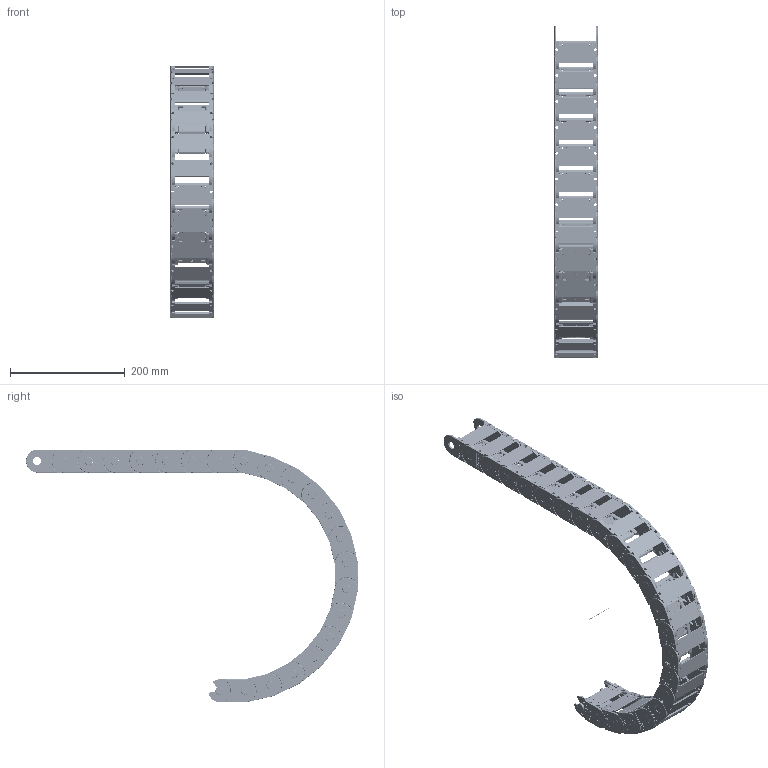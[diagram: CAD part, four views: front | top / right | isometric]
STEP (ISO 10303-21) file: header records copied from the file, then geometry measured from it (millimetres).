
FILE_DESCRIPTION((''),'2;1');
FILE_NAME('C:\Uebbing\PARAMETERKETTEN\KOLIBRI\Kol_40_075_2\Kol_40_075_2_R200.stp','2012-03-05T13:47:32',('Uebbing'),(''),'Autodesk Inventor 10','Autodesk Inventor 10','');
FILE_SCHEMA(('AUTOMOTIVE_DESIGN { 1 0 10303 214 1 1 1 1 }'));
Length unit declared in the file: millimetre
Products named in the file (5): KOLIBRI 40_075_2_PARAMETRISCH; Achse; Kol_40_075_2; Kol_40_075_2_Klappsteg
Assembly tree (25 placements, depth 3):
  KOLIBRI 40_075_2_PARAMETRISCH
    Achse
    Kol_40_075_2  x22
      Kol_40_075_2
      Kol_40_075_2_Klappsteg
Bounding box: 75 x 577.86 x 440 mm (x, y, z)
Volume: 773904.9 mm3; surface area: 528640.6 mm2
Topology: 45 solids, 45 shells, 18703 faces, 49746 edges, 32013 vertices
Faces by surface type: bspline 7810, plane 7130, cylinder 3191, torus 308, sphere 176, cone 88
Full cylindrical faces by diameter (mm): 1 x1, 1.609 x22, 2.825 x22, 3.4 x88, 3.5 x44, 4 x88, 5 x22, 6 x22, 14 x22, 14.1 x22
Entity records: 30606 total; most frequent: CARTESIAN_POINT 10915, ORIENTED_EDGE 4442, DIRECTION 3361, EDGE_CURVE 2221, VERTEX_POINT 1446, VECTOR 1273, LINE 1273, AXIS2_PLACEMENT_3D 1044
